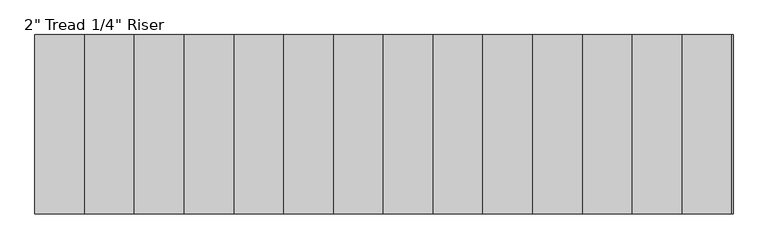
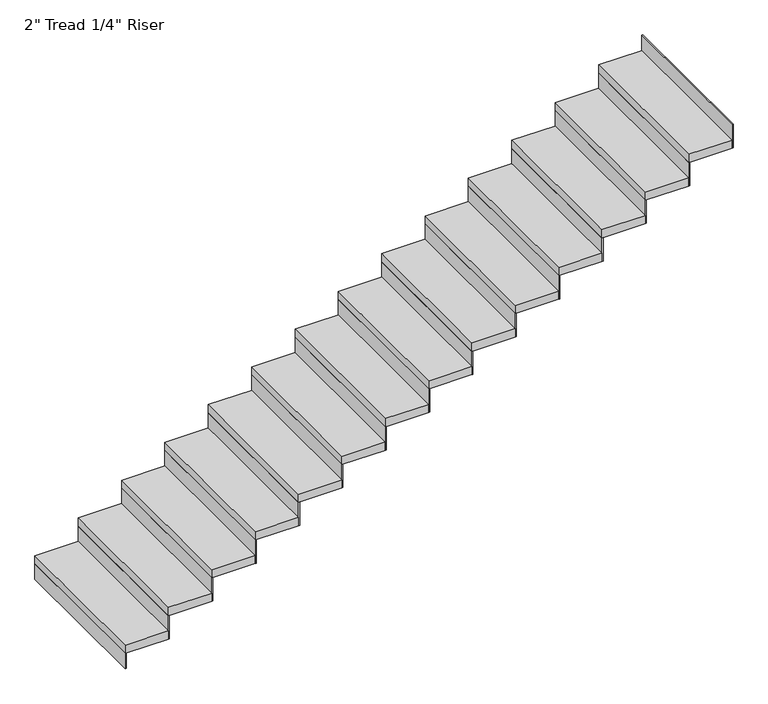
"""IFC4 building model written with IfcOpenShell, lengths in millimetres: stair flight geometry."""

from ifc_helpers import new_model, si_unit, frame, origin, origin_with_axes, place, context, project, spatial, polyline, outline, extrude, source, transform, mapped, element, save


def stair_flight_5e2af056(model_context):
    return source(origin(), model_context, "Body", "SweptSolid", [
        extrude(outline(polyline([(157748.3811068, 15766.1265585), (157742.0311068, 15766.1265585), (157742.0311068, 16680.5265585), (157748.3811068, 16680.5265585), (157748.3811068, 15766.1265585)])), origin_with_axes(), (0.0, 0.0, 1.0), 94.3428571),
        extrude(outline(polyline([(157996.0311068, 16680.5265585), (157996.0311068, 15766.1265585), (157742.0311068, 15766.1265585), (157742.0311068, 16680.5265585), (157996.0311068, 16680.5265585)])), frame((0.0, 0.0, 94.3428571), z_axis=(0.0, 0.0, 1.0), x_axis=(1.0, 0.0, 0.0)), (0.0, 0.0, 1.0), 50.8),
        extrude(outline(polyline([(158002.3811068, 15766.1265585), (157996.0311068, 15766.1265585), (157996.0311068, 16680.5265585), (158002.3811068, 16680.5265585), (158002.3811068, 15766.1265585)])), frame((0.0, 0.0, 94.3428571), z_axis=(0.0, 0.0, 1.0), x_axis=(1.0, 0.0, 0.0)), (0.0, 0.0, 1.0), 145.1428571),
        extrude(outline(polyline([(158250.0311068, 16680.5265585), (158250.0311068, 15766.1265585), (157996.0311068, 15766.1265585), (157996.0311068, 16680.5265585), (158250.0311068, 16680.5265585)])), frame((0.0, 0.0, 239.4857143), z_axis=(0.0, 0.0, 1.0), x_axis=(1.0, 0.0, 0.0)), (0.0, 0.0, 1.0), 50.8),
        extrude(outline(polyline([(158256.3811068, 15766.1265585), (158250.0311068, 15766.1265585), (158250.0311068, 16680.5265585), (158256.3811068, 16680.5265585), (158256.3811068, 15766.1265585)])), frame((0.0, 0.0, 239.4857143), z_axis=(0.0, 0.0, 1.0), x_axis=(1.0, 0.0, 0.0)), (0.0, 0.0, 1.0), 145.1428571),
        extrude(outline(polyline([(158504.0311068, 16680.5265585), (158504.0311068, 15766.1265585), (158250.0311068, 15766.1265585), (158250.0311068, 16680.5265585), (158504.0311068, 16680.5265585)])), frame((0.0, 0.0, 384.6285714), z_axis=(0.0, 0.0, 1.0), x_axis=(1.0, 0.0, 0.0)), (0.0, 0.0, 1.0), 50.8),
        extrude(outline(polyline([(158510.3811068, 15766.1265585), (158504.0311068, 15766.1265585), (158504.0311068, 16680.5265585), (158510.3811068, 16680.5265585), (158510.3811068, 15766.1265585)])), frame((0.0, 0.0, 384.6285714), z_axis=(0.0, 0.0, 1.0), x_axis=(1.0, 0.0, 0.0)), (0.0, 0.0, 1.0), 145.1428571),
        extrude(outline(polyline([(158758.0311068, 16680.5265585), (158758.0311068, 15766.1265585), (158504.0311068, 15766.1265585), (158504.0311068, 16680.5265585), (158758.0311068, 16680.5265585)])), frame((0.0, 0.0, 529.7714286), z_axis=(0.0, 0.0, 1.0), x_axis=(1.0, 0.0, 0.0)), (0.0, 0.0, 1.0), 50.8),
        extrude(outline(polyline([(158764.3811068, 15766.1265585), (158758.0311068, 15766.1265585), (158758.0311068, 16680.5265585), (158764.3811068, 16680.5265585), (158764.3811068, 15766.1265585)])), frame((0.0, 0.0, 529.7714286), z_axis=(0.0, 0.0, 1.0), x_axis=(1.0, 0.0, 0.0)), (0.0, 0.0, 1.0), 145.1428571),
        extrude(outline(polyline([(159012.0311068, 16680.5265585), (159012.0311068, 15766.1265585), (158758.0311068, 15766.1265585), (158758.0311068, 16680.5265585), (159012.0311068, 16680.5265585)])), frame((0.0, 0.0, 674.9142857), z_axis=(0.0, 0.0, 1.0), x_axis=(1.0, 0.0, 0.0)), (0.0, 0.0, 1.0), 50.8),
        extrude(outline(polyline([(159018.3811068, 15766.1265585), (159012.0311068, 15766.1265585), (159012.0311068, 16680.5265585), (159018.3811068, 16680.5265585), (159018.3811068, 15766.1265585)])), frame((0.0, 0.0, 674.9142857), z_axis=(0.0, 0.0, 1.0), x_axis=(1.0, 0.0, 0.0)), (0.0, 0.0, 1.0), 145.1428571),
        extrude(outline(polyline([(159266.0311068, 16680.5265585), (159266.0311068, 15766.1265585), (159012.0311068, 15766.1265585), (159012.0311068, 16680.5265585), (159266.0311068, 16680.5265585)])), frame((0.0, 0.0, 820.0571429), z_axis=(0.0, 0.0, 1.0), x_axis=(1.0, 0.0, 0.0)), (0.0, 0.0, 1.0), 50.8),
        extrude(outline(polyline([(159272.3811068, 15766.1265585), (159266.0311068, 15766.1265585), (159266.0311068, 16680.5265585), (159272.3811068, 16680.5265585), (159272.3811068, 15766.1265585)])), frame((0.0, 0.0, 820.0571429), z_axis=(0.0, 0.0, 1.0), x_axis=(1.0, 0.0, 0.0)), (0.0, 0.0, 1.0), 145.1428571),
        extrude(outline(polyline([(159520.0311068, 16680.5265585), (159520.0311068, 15766.1265585), (159266.0311068, 15766.1265585), (159266.0311068, 16680.5265585), (159520.0311068, 16680.5265585)])), frame((0.0, 0.0, 965.2), z_axis=(0.0, 0.0, 1.0), x_axis=(1.0, 0.0, 0.0)), (0.0, 0.0, 1.0), 50.8),
        extrude(outline(polyline([(159526.3811068, 15766.1265585), (159520.0311068, 15766.1265585), (159520.0311068, 16680.5265585), (159526.3811068, 16680.5265585), (159526.3811068, 15766.1265585)])), frame((0.0, 0.0, 965.2), z_axis=(0.0, 0.0, 1.0), x_axis=(1.0, 0.0, 0.0)), (0.0, 0.0, 1.0), 145.1428571),
        extrude(outline(polyline([(159774.0311068, 16680.5265585), (159774.0311068, 15766.1265585), (159520.0311068, 15766.1265585), (159520.0311068, 16680.5265585), (159774.0311068, 16680.5265585)])), frame((0.0, 0.0, 1110.3428571), z_axis=(0.0, 0.0, 1.0), x_axis=(1.0, 0.0, 0.0)), (0.0, 0.0, 1.0), 50.8),
        extrude(outline(polyline([(159780.3811068, 15766.1265585), (159774.0311068, 15766.1265585), (159774.0311068, 16680.5265585), (159780.3811068, 16680.5265585), (159780.3811068, 15766.1265585)])), frame((0.0, 0.0, 1110.3428571), z_axis=(0.0, 0.0, 1.0), x_axis=(1.0, 0.0, 0.0)), (0.0, 0.0, 1.0), 145.1428571),
        extrude(outline(polyline([(160028.0311068, 16680.5265585), (160028.0311068, 15766.1265585), (159774.0311068, 15766.1265585), (159774.0311068, 16680.5265585), (160028.0311068, 16680.5265585)])), frame((0.0, 0.0, 1255.4857143), z_axis=(0.0, 0.0, 1.0), x_axis=(1.0, 0.0, 0.0)), (0.0, 0.0, 1.0), 50.8),
        extrude(outline(polyline([(160034.3811068, 15766.1265585), (160028.0311068, 15766.1265585), (160028.0311068, 16680.5265585), (160034.3811068, 16680.5265585), (160034.3811068, 15766.1265585)])), frame((0.0, 0.0, 1255.4857143), z_axis=(0.0, 0.0, 1.0), x_axis=(1.0, 0.0, 0.0)), (0.0, 0.0, 1.0), 145.1428571),
        extrude(outline(polyline([(160282.0311068, 16680.5265585), (160282.0311068, 15766.1265585), (160028.0311068, 15766.1265585), (160028.0311068, 16680.5265585), (160282.0311068, 16680.5265585)])), frame((0.0, 0.0, 1400.6285714), z_axis=(0.0, 0.0, 1.0), x_axis=(1.0, 0.0, 0.0)), (0.0, 0.0, 1.0), 50.8),
        extrude(outline(polyline([(160288.3811068, 15766.1265585), (160282.0311068, 15766.1265585), (160282.0311068, 16680.5265585), (160288.3811068, 16680.5265585), (160288.3811068, 15766.1265585)])), frame((0.0, 0.0, 1400.6285714), z_axis=(0.0, 0.0, 1.0), x_axis=(1.0, 0.0, 0.0)), (0.0, 0.0, 1.0), 145.1428571),
        extrude(outline(polyline([(160536.0311068, 16680.5265585), (160536.0311068, 15766.1265585), (160282.0311068, 15766.1265585), (160282.0311068, 16680.5265585), (160536.0311068, 16680.5265585)])), frame((0.0, 0.0, 1545.7714286), z_axis=(0.0, 0.0, 1.0), x_axis=(1.0, 0.0, 0.0)), (0.0, 0.0, 1.0), 50.8),
        extrude(outline(polyline([(160542.3811068, 15766.1265585), (160536.0311068, 15766.1265585), (160536.0311068, 16680.5265585), (160542.3811068, 16680.5265585), (160542.3811068, 15766.1265585)])), frame((0.0, 0.0, 1545.7714286), z_axis=(0.0, 0.0, 1.0), x_axis=(1.0, 0.0, 0.0)), (0.0, 0.0, 1.0), 145.1428571),
        extrude(outline(polyline([(160790.0311068, 16680.5265585), (160790.0311068, 15766.1265585), (160536.0311068, 15766.1265585), (160536.0311068, 16680.5265585), (160790.0311068, 16680.5265585)])), frame((0.0, 0.0, 1690.9142857), z_axis=(0.0, 0.0, 1.0), x_axis=(1.0, 0.0, 0.0)), (0.0, 0.0, 1.0), 50.8),
        extrude(outline(polyline([(160796.3811068, 15766.1265585), (160790.0311068, 15766.1265585), (160790.0311068, 16680.5265585), (160796.3811068, 16680.5265585), (160796.3811068, 15766.1265585)])), frame((0.0, 0.0, 1690.9142857), z_axis=(0.0, 0.0, 1.0), x_axis=(1.0, 0.0, 0.0)), (0.0, 0.0, 1.0), 145.1428571),
        extrude(outline(polyline([(161044.0311068, 16680.5265585), (161044.0311068, 15766.1265585), (160790.0311068, 15766.1265585), (160790.0311068, 16680.5265585), (161044.0311068, 16680.5265585)])), frame((0.0, 0.0, 1836.0571429), z_axis=(0.0, 0.0, 1.0), x_axis=(1.0, 0.0, 0.0)), (0.0, 0.0, 1.0), 50.8),
        extrude(outline(polyline([(161050.3811068, 15766.1265585), (161044.0311068, 15766.1265585), (161044.0311068, 16680.5265585), (161050.3811068, 16680.5265585), (161050.3811068, 15766.1265585)])), frame((0.0, 0.0, 1836.0571429), z_axis=(0.0, 0.0, 1.0), x_axis=(1.0, 0.0, 0.0)), (0.0, 0.0, 1.0), 145.1428571),
        extrude(outline(polyline([(161304.3811068, 15766.1265585), (161298.0311068, 15766.1265585), (161298.0311068, 16680.5265585), (161304.3811068, 16680.5265585), (161304.3811068, 15766.1265585)])), frame((0.0, 0.0, 1981.2), z_axis=(0.0, 0.0, 1.0), x_axis=(1.0, 0.0, 0.0)), (0.0, 0.0, 1.0), 145.1428571),
        extrude(outline(polyline([(161298.0311068, 16680.5265585), (161298.0311068, 15766.1265585), (161044.0311068, 15766.1265585), (161044.0311068, 16680.5265585), (161298.0311068, 16680.5265585)])), frame((0.0, 0.0, 1981.2), z_axis=(0.0, 0.0, 1.0), x_axis=(1.0, 0.0, 0.0)), (0.0, 0.0, 1.0), 50.8),
    ])


if __name__ == "__main__":
    model = new_model("IFC4")
    model_context = context("Model", 3, world=origin())
    ifc_project = project(units=[si_unit("LENGTHUNIT", "METRE", prefix="MILLI")], contexts=[model_context])
    site = spatial("IfcSite", under=ifc_project)
    building = spatial("IfcBuilding", under=site)
    placement = place(None, origin())
    stair_flight_shape = stair_flight_5e2af056(model_context)
    element("IfcStairFlight", 1, ObjectType="2\" Tread 1/4\" Riser", at=placement, inside=building, context=model_context, shape_type="MappedRepresentation", body=[
        mapped(stair_flight_shape, transform((0.0, 0.0, 0.0), x_axis=(1.0, 0.0, 0.0), y_axis=(0.0, 1.0, 0.0), z_axis=(0.0, 0.0, 1.0))),
    ])
    save(model, "model.ifc")
